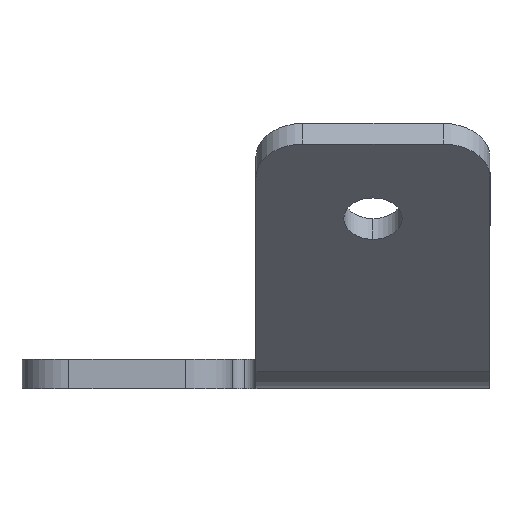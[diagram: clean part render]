
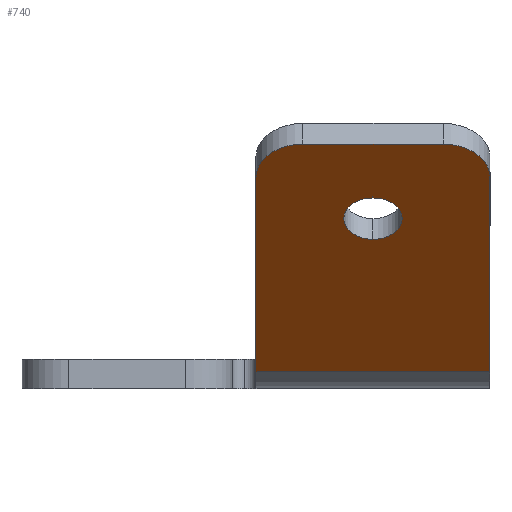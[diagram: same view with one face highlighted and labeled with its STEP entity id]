
A CAD part, left-side view. The second image highlights one B-rep face of the part: STEP entity #740.
In plain terms, the highlighted planar face has unit normal (-0.707, 0, -0.707).
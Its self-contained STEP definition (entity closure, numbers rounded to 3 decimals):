
#21 = CARTESIAN_POINT ( 'NONE',  ( -34.42, 10., 18.385 ) ) ;
#47 = VERTEX_POINT ( 'NONE', #856 ) ;
#83 = LINE ( 'NONE', #989, #113 ) ;
#113 = VECTOR ( 'NONE', #890, 1000. ) ;
#123 = ORIENTED_EDGE ( 'NONE', *, *, #550, .F. ) ;
#134 = EDGE_CURVE ( 'NONE', #1220, #1346, #344, .T. ) ;
#144 = CARTESIAN_POINT ( 'NONE',  ( -26.289, 0., 10.253 ) ) ;
#156 = DIRECTION ( 'NONE',  ( 0.707, 0., -0.707 ) ) ;
#187 = DIRECTION ( 'NONE',  ( 0.707, 0., 0.707 ) ) ;
#189 = CARTESIAN_POINT ( 'NONE',  ( -28.056, 0., 12.021 ) ) ;
#193 = ORIENTED_EDGE ( 'NONE', *, *, #1396, .F. ) ;
#196 = CARTESIAN_POINT ( 'NONE',  ( -31.592, -10., 15.556 ) ) ;
#206 = DIRECTION ( 'NONE',  ( 0.707, 0., 0.707 ) ) ;
#208 = ORIENTED_EDGE ( 'NONE', *, *, #394, .T. ) ;
#226 = CARTESIAN_POINT ( 'NONE',  ( -14.971, -10., -1.065 ) ) ;
#235 = LINE ( 'NONE', #21, #813 ) ;
#254 = AXIS2_PLACEMENT_3D ( 'NONE', #1146, #1381, #1360 ) ;
#261 = AXIS2_PLACEMENT_3D ( 'NONE', #876, #187, #736 ) ;
#264 = AXIS2_PLACEMENT_3D ( 'NONE', #189, #1472, #1115 ) ;
#270 = CARTESIAN_POINT ( 'NONE',  ( -34.42, -6., 18.385 ) ) ;
#302 = VERTEX_POINT ( 'NONE', #226 ) ;
#304 = VERTEX_POINT ( 'NONE', #590 ) ;
#344 = CIRCLE ( 'NONE', #261, 4. ) ;
#346 = EDGE_LOOP ( 'NONE', ( #1451, #560 ) ) ;
#347 = ORIENTED_EDGE ( 'NONE', *, *, #431, .T. ) ;
#358 = DIRECTION ( 'NONE',  ( 0., 1., 0. ) ) ;
#362 = EDGE_LOOP ( 'NONE', ( #208, #347, #950, #193, #123, #1471 ) ) ;
#394 = EDGE_CURVE ( 'NONE', #1220, #897, #235, .T. ) ;
#431 = EDGE_CURVE ( 'NONE', #897, #47, #1366, .T. ) ;
#440 = CIRCLE ( 'NONE', #1071, 2.5 ) ;
#550 = EDGE_CURVE ( 'NONE', #1346, #302, #1457, .T. ) ;
#560 = ORIENTED_EDGE ( 'NONE', *, *, #841, .T. ) ;
#565 = PLANE ( 'NONE',  #254 ) ;
#590 = CARTESIAN_POINT ( 'NONE',  ( -29.824, 0., 13.789 ) ) ;
#611 = EDGE_CURVE ( 'NONE', #47, #922, #812, .T. ) ;
#612 = VECTOR ( 'NONE', #955, 1000. ) ;
#713 = DIRECTION ( 'NONE',  ( -0.707, 0., -0.707 ) ) ;
#716 = FACE_BOUND ( 'NONE', #346, .T. ) ;
#736 = DIRECTION ( 'NONE',  ( 0.707, 0., -0.707 ) ) ;
#740 = ADVANCED_FACE ( 'NONE', ( #716, #845 ), #565, .F. ) ;
#742 = CIRCLE ( 'NONE', #264, 2.5 ) ;
#812 = LINE ( 'NONE', #1070, #612 ) ;
#813 = VECTOR ( 'NONE', #358, 1000. ) ;
#841 = EDGE_CURVE ( 'NONE', #304, #1122, #440, .T. ) ;
#845 = FACE_OUTER_BOUND ( 'NONE', #362, .T. ) ;
#856 = CARTESIAN_POINT ( 'NONE',  ( -31.592, 10., 15.556 ) ) ;
#876 = CARTESIAN_POINT ( 'NONE',  ( -31.592, -6., 15.556 ) ) ;
#890 = DIRECTION ( 'NONE',  ( 0., 1., 0. ) ) ;
#891 = DIRECTION ( 'NONE',  ( 0.707, 0., -0.707 ) ) ;
#895 = CARTESIAN_POINT ( 'NONE',  ( -28.056, 0., 12.021 ) ) ;
#897 = VERTEX_POINT ( 'NONE', #1166 ) ;
#922 = VERTEX_POINT ( 'NONE', #1169 ) ;
#950 = ORIENTED_EDGE ( 'NONE', *, *, #611, .T. ) ;
#955 = DIRECTION ( 'NONE',  ( 0.707, 0., -0.707 ) ) ;
#989 = CARTESIAN_POINT ( 'NONE',  ( -14.971, 0., -1.065 ) ) ;
#1070 = CARTESIAN_POINT ( 'NONE',  ( -14.268, 10., -1.768 ) ) ;
#1071 = AXIS2_PLACEMENT_3D ( 'NONE', #895, #206, #891 ) ;
#1087 = CARTESIAN_POINT ( 'NONE',  ( -14.268, -10., -1.768 ) ) ;
#1115 = DIRECTION ( 'NONE',  ( 0.707, 0., -0.707 ) ) ;
#1122 = VERTEX_POINT ( 'NONE', #144 ) ;
#1139 = VECTOR ( 'NONE', #156, 1000. ) ;
#1146 = CARTESIAN_POINT ( 'NONE',  ( -8.018, 0., -8.018 ) ) ;
#1166 = CARTESIAN_POINT ( 'NONE',  ( -34.42, 6., 18.385 ) ) ;
#1169 = CARTESIAN_POINT ( 'NONE',  ( -14.971, 10., -1.065 ) ) ;
#1188 = DIRECTION ( 'NONE',  ( 0.707, 0., -0.707 ) ) ;
#1189 = AXIS2_PLACEMENT_3D ( 'NONE', #1296, #713, #1188 ) ;
#1220 = VERTEX_POINT ( 'NONE', #270 ) ;
#1288 = EDGE_CURVE ( 'NONE', #1122, #304, #742, .T. ) ;
#1296 = CARTESIAN_POINT ( 'NONE',  ( -31.592, 6., 15.556 ) ) ;
#1346 = VERTEX_POINT ( 'NONE', #196 ) ;
#1360 = DIRECTION ( 'NONE',  ( 0.707, 0., -0.707 ) ) ;
#1366 = CIRCLE ( 'NONE', #1189, 4. ) ;
#1381 = DIRECTION ( 'NONE',  ( 0.707, 0., 0.707 ) ) ;
#1396 = EDGE_CURVE ( 'NONE', #302, #922, #83, .T. ) ;
#1451 = ORIENTED_EDGE ( 'NONE', *, *, #1288, .T. ) ;
#1457 = LINE ( 'NONE', #1087, #1139 ) ;
#1471 = ORIENTED_EDGE ( 'NONE', *, *, #134, .F. ) ;
#1472 = DIRECTION ( 'NONE',  ( 0.707, 0., 0.707 ) ) ;
